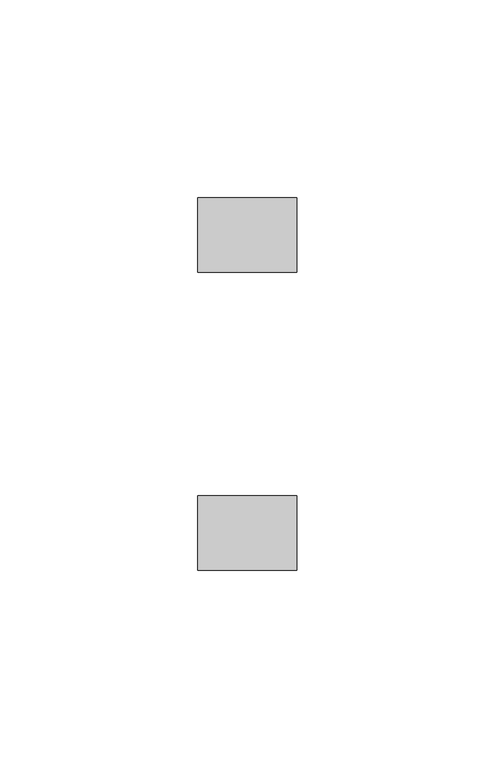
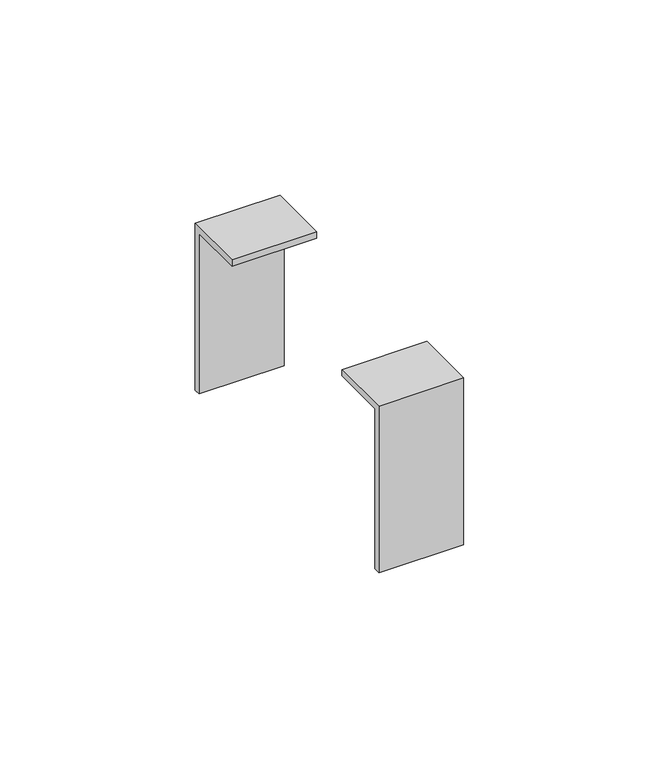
"""IFC4 building model written with IfcOpenShell, lengths in millimetres: cable carrier fitting geometry, КНС_НакладкаНаСтыкПрофилейКоробов_ILF_DKC : Белый."""

from ifc_helpers import new_model, si_unit, frame, origin, place, context, project, spatial, polyline, outline, extrude, source, transform, mapped, element, save


def cable_carrier_fitting_acbd40a6(model_context):
    return source(origin(), model_context, "Body", "SweptSolid", [
        extrude(outline(polyline([(47.0, -25.0), (45.0, -25.0), (45.0, 25.0), (28.2, 25.0), (28.2, 27.0), (47.0, 27.0), (47.0, -25.0)])), frame((-12.5, 0.0, 0.0), z_axis=(1.0, 0.0, 0.0), x_axis=(0.0, 1.0, 0.0)), (0.0, 0.0, 1.0), 25.0),
        extrude(outline(polyline([(-47.0, -25.0), (-47.0, 27.0), (-28.2, 27.0), (-28.2, 25.0), (-45.0, 25.0), (-45.0, -25.0), (-47.0, -25.0)])), frame((-12.5, 0.0, 0.0), z_axis=(1.0, 0.0, 0.0), x_axis=(0.0, 1.0, 0.0)), (0.0, 0.0, 1.0), 25.0),
    ])


if __name__ == "__main__":
    model = new_model("IFC4")
    model_context = context("Model", 3, world=origin())
    ifc_project = project(units=[si_unit("LENGTHUNIT", "METRE", prefix="MILLI")], contexts=[model_context])
    site = spatial("IfcSite", under=ifc_project)
    building = spatial("IfcBuilding", under=site)
    placement = place(None, origin())
    cable_carrier_fitting_shape = cable_carrier_fitting_acbd40a6(model_context)
    element("IfcCableCarrierFitting", 1, ObjectType="КНС_НакладкаНаСтыкПрофилейКоробов_ILF_DKC : Белый", at=placement, inside=building, context=model_context, shape_type="MappedRepresentation", body=[
        mapped(cable_carrier_fitting_shape, transform((0.0, 0.0, 0.0), x_axis=(1.0, 0.0, 0.0), y_axis=(0.0, 1.0, 0.0), z_axis=(0.0, 0.0, 1.0))),
    ])
    save(model, "model.ifc")
